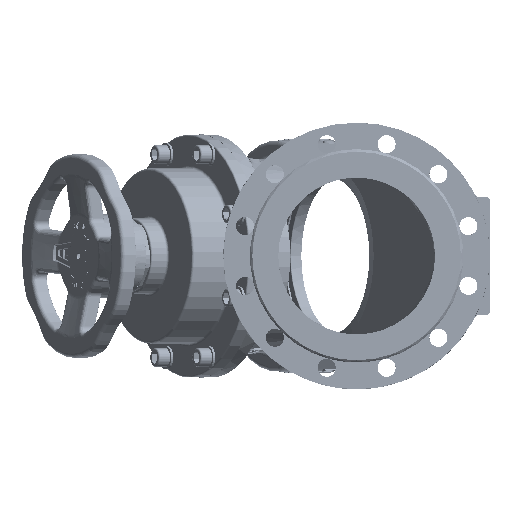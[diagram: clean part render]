
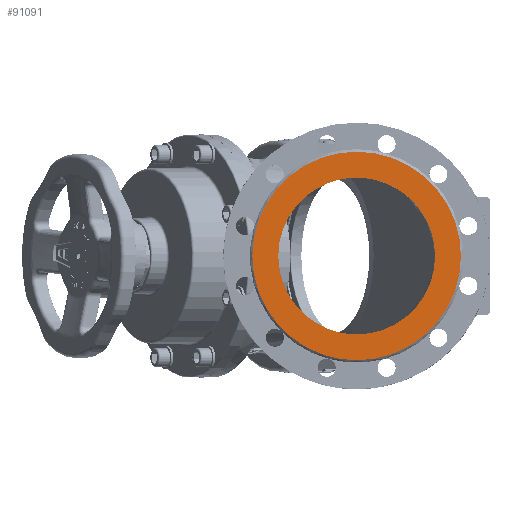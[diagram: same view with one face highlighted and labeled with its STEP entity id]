
A CAD part, left-side view. The second image highlights one B-rep face of the part: STEP entity #91091.
In plain terms, the highlighted planar face has unit normal (-1, 0, 0).
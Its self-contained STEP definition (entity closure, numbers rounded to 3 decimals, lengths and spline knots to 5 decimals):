
#431=PLANE('',#97394);
#3539=FACE_BOUND('',#28250,.T.);
#22441=FACE_OUTER_BOUND('',#28249,.T.);
#28249=EDGE_LOOP('',(#62895));
#28250=EDGE_LOOP('',(#62896));
#34541=CIRCLE('',#97226,0.133);
#34571=CIRCLE('',#97267,0.1);
#38929=VERTEX_POINT('',#132140);
#38962=VERTEX_POINT('',#132883);
#47939=EDGE_CURVE('',#38929,#38929,#34541,.T.);
#47995=EDGE_CURVE('',#38962,#38962,#34571,.T.);
#62895=ORIENTED_EDGE('',*,*,#47939,.F.);
#62896=ORIENTED_EDGE('',*,*,#47995,.T.);
#91091=ADVANCED_FACE('',(#22441,#3539),#431,.T.);
#97226=AXIS2_PLACEMENT_3D('',#132142,#106630,#106631);
#97267=AXIS2_PLACEMENT_3D('',#132884,#106717,#106718);
#97394=AXIS2_PLACEMENT_3D('',#152796,#107035,#107036);
#106630=DIRECTION('center_axis',(1.,0.,0.));
#106631=DIRECTION('ref_axis',(0.,0.,-1.));
#106717=DIRECTION('center_axis',(1.,0.,0.));
#106718=DIRECTION('ref_axis',(0.,0.,-1.));
#107035=DIRECTION('center_axis',(-1.,0.,0.));
#107036=DIRECTION('ref_axis',(0.,0.,1.));
#132140=CARTESIAN_POINT('',(-0.3,0.,0.133));
#132142=CARTESIAN_POINT('Origin',(-0.3,0.,0.));
#132883=CARTESIAN_POINT('',(-0.3,0.,0.1));
#132884=CARTESIAN_POINT('Origin',(-0.3,0.,0.));
#152796=CARTESIAN_POINT('Origin',(-0.3,0.1,0.));
